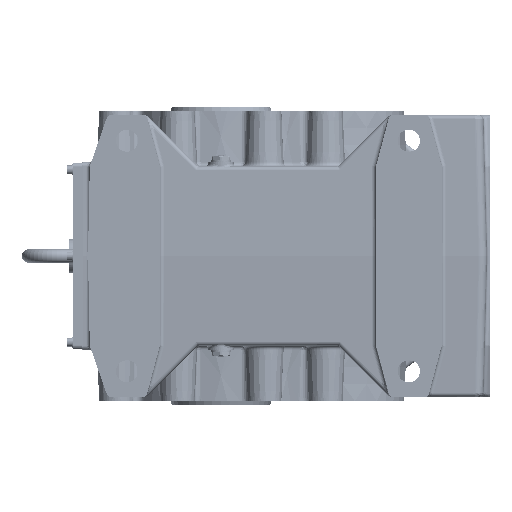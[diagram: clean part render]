
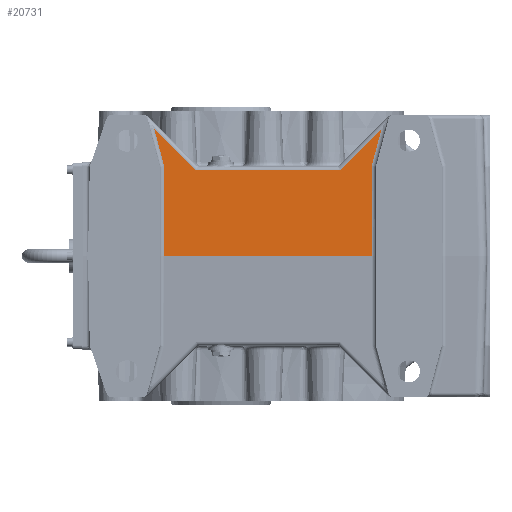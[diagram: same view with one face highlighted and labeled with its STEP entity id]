
A CAD part, left-side view. The second image highlights one B-rep face of the part: STEP entity #20731.
In plain terms, the highlighted planar face has unit normal (-1, 0, 0.026).
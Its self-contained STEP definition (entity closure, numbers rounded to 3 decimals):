
#20572=CARTESIAN_POINT('',(-194.75,-176.5,0.0));
#20573=VERTEX_POINT('',#20572);
#20580=CARTESIAN_POINT('',(-194.75,66.5,0.0));
#20581=VERTEX_POINT('',#20580);
#20582=CARTESIAN_POINT('',(-194.75,66.5,0.0));
#20583=DIRECTION('',(0.0,-1.0,0.0));
#20584=VECTOR('',#20583,243.0);
#20585=LINE('',#20582,#20584);
#20586=EDGE_CURVE('',#20581,#20573,#20585,.T.);
#20669=CARTESIAN_POINT('',(-194.749,-307.0,0.036));
#20670=DIRECTION('',(-1.,0.,0.026));
#20671=DIRECTION('',(0.026,0.,1.));
#20672=AXIS2_PLACEMENT_3D('',#20669,#20670,#20671);
#20673=PLANE('',#20672);
#20674=CARTESIAN_POINT('',(-191.986,66.5,105.524));
#20675=VERTEX_POINT('',#20674);
#20676=CARTESIAN_POINT('',(-194.75,66.5,0.));
#20677=DIRECTION('',(0.026,0.0,1.));
#20678=VECTOR('',#20677,105.561);
#20679=LINE('',#20676,#20678);
#20680=EDGE_CURVE('',#20581,#20675,#20679,.T.);
#20681=ORIENTED_EDGE('',*,*,#20680,.F.);
#20682=ORIENTED_EDGE('',*,*,#20586,.T.);
#20683=CARTESIAN_POINT('',(-191.986,-176.5,105.524));
#20684=VERTEX_POINT('',#20683);
#20685=CARTESIAN_POINT('',(-191.986,-176.5,105.524));
#20686=DIRECTION('',(-0.026,0.0,-1.));
#20687=VECTOR('',#20686,105.561);
#20688=LINE('',#20685,#20687);
#20689=EDGE_CURVE('',#20684,#20573,#20688,.T.);
#20690=ORIENTED_EDGE('',*,*,#20689,.F.);
#20691=CARTESIAN_POINT('',(-190.86,-187.967,148.527));
#20692=VERTEX_POINT('',#20691);
#20693=CARTESIAN_POINT('',(-190.86,-187.967,148.527));
#20694=DIRECTION('',(-0.025,0.258,-0.966));
#20695=VECTOR('',#20694,44.52);
#20696=LINE('',#20693,#20695);
#20697=EDGE_CURVE('',#20692,#20684,#20696,.T.);
#20698=ORIENTED_EDGE('',*,*,#20697,.F.);
#20699=CARTESIAN_POINT('',(-192.128,-139.571,100.131));
#20700=VERTEX_POINT('',#20699);
#20701=CARTESIAN_POINT('',(-192.128,-139.571,100.131));
#20702=DIRECTION('',(0.019,-0.707,0.707));
#20703=VECTOR('',#20702,68.455);
#20704=LINE('',#20701,#20703);
#20705=EDGE_CURVE('',#20700,#20692,#20704,.T.);
#20706=ORIENTED_EDGE('',*,*,#20705,.F.);
#20707=CARTESIAN_POINT('',(-192.128,29.571,100.131));
#20708=VERTEX_POINT('',#20707);
#20709=CARTESIAN_POINT('',(-192.128,29.571,100.131));
#20710=DIRECTION('',(0.0,-1.0,0.0));
#20711=VECTOR('',#20710,169.142);
#20712=LINE('',#20709,#20711);
#20713=EDGE_CURVE('',#20708,#20700,#20712,.T.);
#20714=ORIENTED_EDGE('',*,*,#20713,.F.);
#20715=CARTESIAN_POINT('',(-190.86,77.967,148.527));
#20716=VERTEX_POINT('',#20715);
#20717=CARTESIAN_POINT('',(-190.86,77.967,148.527));
#20718=DIRECTION('',(-0.019,-0.707,-0.707));
#20719=VECTOR('',#20718,68.455);
#20720=LINE('',#20717,#20719);
#20721=EDGE_CURVE('',#20716,#20708,#20720,.T.);
#20722=ORIENTED_EDGE('',*,*,#20721,.F.);
#20723=CARTESIAN_POINT('',(-191.986,66.5,105.524));
#20724=DIRECTION('',(0.025,0.258,0.966));
#20725=VECTOR('',#20724,44.52);
#20726=LINE('',#20723,#20725);
#20727=EDGE_CURVE('',#20675,#20716,#20726,.T.);
#20728=ORIENTED_EDGE('',*,*,#20727,.F.);
#20729=EDGE_LOOP('',(#20681,#20682,#20690,#20698,#20706,#20714,#20722,#20728));
#20730=FACE_OUTER_BOUND('',#20729,.T.);
#20731=ADVANCED_FACE('',(#20730),#20673,.T.);
